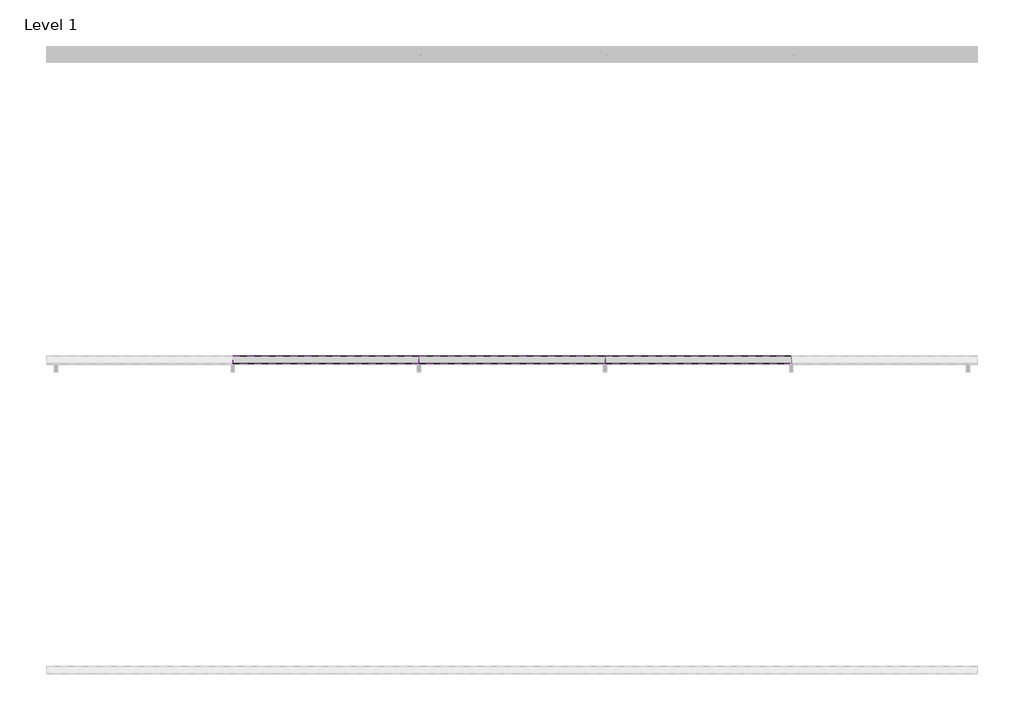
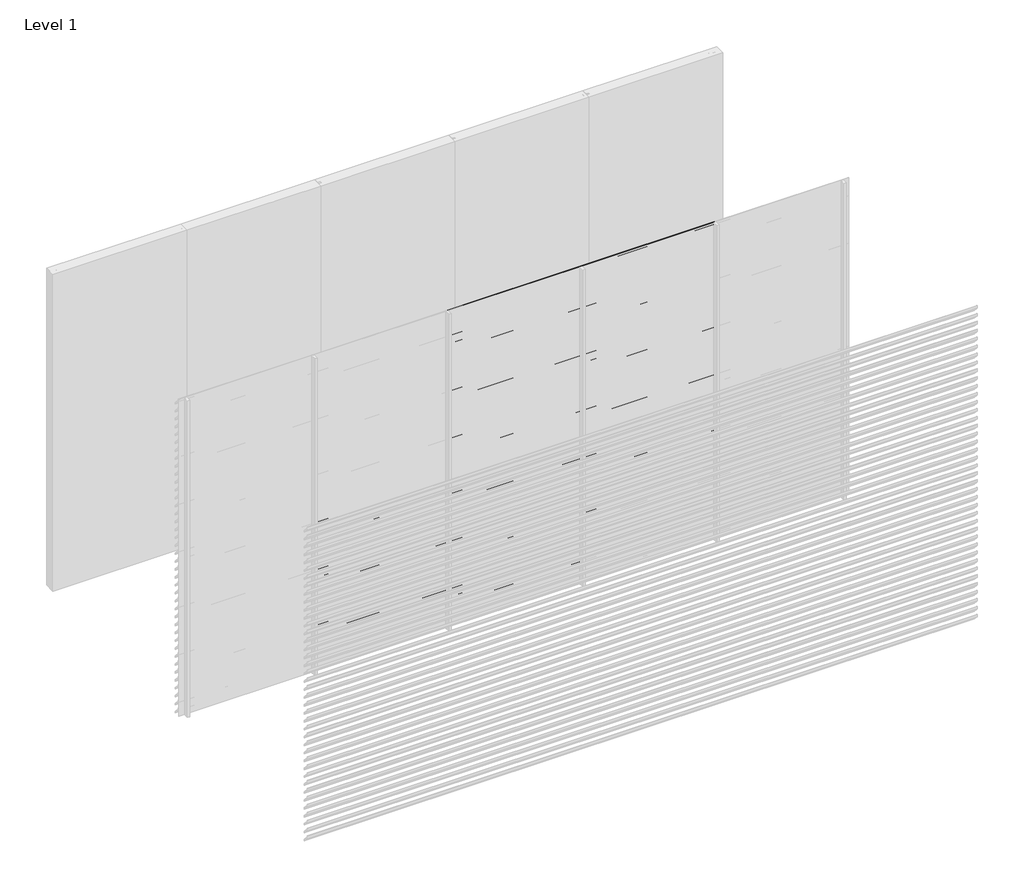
# One storey, part 8 of 11: 93 proxies.
"""IFC4 building model written with IfcOpenShell, lengths in millimetres."""

from ifc_helpers import new_model, si_unit, frame, origin, place, context, project, spatial, polyline, outline, extrude, element, save

model = new_model("IFC4")

# Units and contexts
model_context = context("Model", 3, world=origin())
ifc_project = project(units=[si_unit("LENGTHUNIT", "METRE", prefix="MILLI")], contexts=[model_context])

# Site, building, storey
site = spatial("IfcSite", under=ifc_project)
building = spatial("IfcBuilding", under=site)
storey = spatial("IfcBuildingStorey", under=building, Name="Level 1", Elevation=0.0)

# Proxies
placement = place(None, origin())
element("IfcBuildingElementProxy", 1, Name="Wall Sweeps", at=placement, inside=storey, context=model_context, shape_type="SweptSolid", body=[
    extrude(outline(polyline([(-5995.0, 1575.0), (-5995.0, 1565.7409854), (-5946.0, 1515.0), (-5946.0, 1499.0), (-5997.0, 1551.812046), (-5997.0, 1575.0), (-5995.0, 1575.0)])), frame((1200.0, 0.0, 0.0), z_axis=(1.0, 0.0, 0.0), x_axis=(0.0, 1.0, 0.0)), (0.0, 0.0, 1.0), 1200.0),
])
element("IfcBuildingElementProxy", 2, Name="Wall Sweeps", at=placement, inside=storey, context=model_context, shape_type="SweptSolid", body=[
    extrude(outline(polyline([(-5995.0, 1500.0), (-5995.0, 1490.7409854), (-5946.0, 1440.0), (-5946.0, 1424.0), (-5997.0, 1476.812046), (-5997.0, 1500.0), (-5995.0, 1500.0)])), frame((1200.0, 0.0, 0.0), z_axis=(1.0, 0.0, 0.0), x_axis=(0.0, 1.0, 0.0)), (0.0, 0.0, 1.0), 1200.0),
])
element("IfcBuildingElementProxy", 3, Name="Wall Sweeps", at=placement, inside=storey, context=model_context, shape_type="SweptSolid", body=[
    extrude(outline(polyline([(-5995.0, 1425.0), (-5995.0, 1415.7409854), (-5946.0, 1365.0), (-5946.0, 1349.0), (-5997.0, 1401.812046), (-5997.0, 1425.0), (-5995.0, 1425.0)])), frame((1200.0, 0.0, 0.0), z_axis=(1.0, 0.0, 0.0), x_axis=(0.0, 1.0, 0.0)), (0.0, 0.0, 1.0), 1200.0),
])
element("IfcBuildingElementProxy", 4, Name="Wall Sweeps", at=placement, inside=storey, context=model_context, shape_type="SweptSolid", body=[
    extrude(outline(polyline([(-5995.0, 1350.0), (-5995.0, 1340.7409854), (-5946.0, 1290.0), (-5946.0, 1274.0), (-5997.0, 1326.812046), (-5997.0, 1350.0), (-5995.0, 1350.0)])), frame((1200.0, 0.0, 0.0), z_axis=(1.0, 0.0, 0.0), x_axis=(0.0, 1.0, 0.0)), (0.0, 0.0, 1.0), 1200.0),
])
element("IfcBuildingElementProxy", 5, Name="Wall Sweeps", at=placement, inside=storey, context=model_context, shape_type="SweptSolid", body=[
    extrude(outline(polyline([(-5995.0, 1275.0), (-5995.0, 1265.7409854), (-5946.0, 1215.0), (-5946.0, 1199.0), (-5997.0, 1251.812046), (-5997.0, 1275.0), (-5995.0, 1275.0)])), frame((1200.0, 0.0, 0.0), z_axis=(1.0, 0.0, 0.0), x_axis=(0.0, 1.0, 0.0)), (0.0, 0.0, 1.0), 1200.0),
])
element("IfcBuildingElementProxy", 6, Name="Wall Sweeps", at=placement, inside=storey, context=model_context, shape_type="SweptSolid", body=[
    extrude(outline(polyline([(-5995.0, 1200.0), (-5995.0, 1190.7409854), (-5946.0, 1140.0), (-5946.0, 1124.0), (-5997.0, 1176.812046), (-5997.0, 1200.0), (-5995.0, 1200.0)])), frame((1200.0, 0.0, 0.0), z_axis=(1.0, 0.0, 0.0), x_axis=(0.0, 1.0, 0.0)), (0.0, 0.0, 1.0), 1200.0),
])
element("IfcBuildingElementProxy", 7, Name="Wall Sweeps", at=placement, inside=storey, context=model_context, shape_type="SweptSolid", body=[
    extrude(outline(polyline([(-5995.0, 1125.0), (-5995.0, 1115.7409854), (-5946.0, 1065.0), (-5946.0, 1049.0), (-5997.0, 1101.812046), (-5997.0, 1125.0), (-5995.0, 1125.0)])), frame((1200.0, 0.0, 0.0), z_axis=(1.0, 0.0, 0.0), x_axis=(0.0, 1.0, 0.0)), (0.0, 0.0, 1.0), 1200.0),
])
element("IfcBuildingElementProxy", 8, Name="Wall Sweeps", at=placement, inside=storey, context=model_context, shape_type="SweptSolid", body=[
    extrude(outline(polyline([(-5995.0, 1050.0), (-5995.0, 1040.7409854), (-5946.0, 990.0), (-5946.0, 974.0), (-5997.0, 1026.812046), (-5997.0, 1050.0), (-5995.0, 1050.0)])), frame((1200.0, 0.0, 0.0), z_axis=(1.0, 0.0, 0.0), x_axis=(0.0, 1.0, 0.0)), (0.0, 0.0, 1.0), 1200.0),
])
element("IfcBuildingElementProxy", 9, Name="Wall Sweeps", at=placement, inside=storey, context=model_context, shape_type="SweptSolid", body=[
    extrude(outline(polyline([(-5995.0, 975.0), (-5995.0, 965.7409854), (-5946.0, 915.0), (-5946.0, 899.0), (-5997.0, 951.812046), (-5997.0, 975.0), (-5995.0, 975.0)])), frame((1200.0, 0.0, 0.0), z_axis=(1.0, 0.0, 0.0), x_axis=(0.0, 1.0, 0.0)), (0.0, 0.0, 1.0), 1200.0),
])
element("IfcBuildingElementProxy", 10, Name="Wall Sweeps", at=placement, inside=storey, context=model_context, shape_type="SweptSolid", body=[
    extrude(outline(polyline([(-5995.0, 900.0), (-5995.0, 890.7409854), (-5946.0, 840.0), (-5946.0, 824.0), (-5997.0, 876.812046), (-5997.0, 900.0), (-5995.0, 900.0)])), frame((1200.0, 0.0, 0.0), z_axis=(1.0, 0.0, 0.0), x_axis=(0.0, 1.0, 0.0)), (0.0, 0.0, 1.0), 1200.0),
])
element("IfcBuildingElementProxy", 11, Name="Wall Sweeps", at=placement, inside=storey, context=model_context, shape_type="SweptSolid", body=[
    extrude(outline(polyline([(-5995.0, 825.0), (-5995.0, 815.7409854), (-5946.0, 765.0), (-5946.0, 749.0), (-5997.0, 801.812046), (-5997.0, 825.0), (-5995.0, 825.0)])), frame((1200.0, 0.0, 0.0), z_axis=(1.0, 0.0, 0.0), x_axis=(0.0, 1.0, 0.0)), (0.0, 0.0, 1.0), 1200.0),
])
element("IfcBuildingElementProxy", 12, Name="Wall Sweeps", at=placement, inside=storey, context=model_context, shape_type="SweptSolid", body=[
    extrude(outline(polyline([(-5995.0, 750.0), (-5995.0, 740.7409854), (-5946.0, 690.0), (-5946.0, 674.0), (-5997.0, 726.812046), (-5997.0, 750.0), (-5995.0, 750.0)])), frame((1200.0, 0.0, 0.0), z_axis=(1.0, 0.0, 0.0), x_axis=(0.0, 1.0, 0.0)), (0.0, 0.0, 1.0), 1200.0),
])
element("IfcBuildingElementProxy", 13, Name="Wall Sweeps", at=placement, inside=storey, context=model_context, shape_type="SweptSolid", body=[
    extrude(outline(polyline([(-5995.0, 675.0), (-5995.0, 665.7409854), (-5946.0, 615.0), (-5946.0, 599.0), (-5997.0, 651.812046), (-5997.0, 675.0), (-5995.0, 675.0)])), frame((1200.0, 0.0, 0.0), z_axis=(1.0, 0.0, 0.0), x_axis=(0.0, 1.0, 0.0)), (0.0, 0.0, 1.0), 1200.0),
])
element("IfcBuildingElementProxy", 14, Name="Wall Sweeps", at=placement, inside=storey, context=model_context, shape_type="SweptSolid", body=[
    extrude(outline(polyline([(-5995.0, 600.0), (-5995.0, 590.7409854), (-5946.0, 540.0), (-5946.0, 524.0), (-5997.0, 576.812046), (-5997.0, 600.0), (-5995.0, 600.0)])), frame((1200.0, 0.0, 0.0), z_axis=(1.0, 0.0, 0.0), x_axis=(0.0, 1.0, 0.0)), (0.0, 0.0, 1.0), 1200.0),
])
element("IfcBuildingElementProxy", 15, Name="Wall Sweeps", at=placement, inside=storey, context=model_context, shape_type="SweptSolid", body=[
    extrude(outline(polyline([(-5995.0, 525.0), (-5995.0, 515.7409854), (-5946.0, 465.0), (-5946.0, 449.0), (-5997.0, 501.812046), (-5997.0, 525.0), (-5995.0, 525.0)])), frame((1200.0, 0.0, 0.0), z_axis=(1.0, 0.0, 0.0), x_axis=(0.0, 1.0, 0.0)), (0.0, 0.0, 1.0), 1200.0),
])
element("IfcBuildingElementProxy", 16, Name="Wall Sweeps", at=placement, inside=storey, context=model_context, shape_type="SweptSolid", body=[
    extrude(outline(polyline([(-5995.0, 450.0), (-5995.0, 440.7409854), (-5946.0, 390.0), (-5946.0, 374.0), (-5997.0, 426.812046), (-5997.0, 450.0), (-5995.0, 450.0)])), frame((1200.0, 0.0, 0.0), z_axis=(1.0, 0.0, 0.0), x_axis=(0.0, 1.0, 0.0)), (0.0, 0.0, 1.0), 1200.0),
])
element("IfcBuildingElementProxy", 17, Name="Wall Sweeps", at=placement, inside=storey, context=model_context, shape_type="SweptSolid", body=[
    extrude(outline(polyline([(-5995.0, 375.0), (-5995.0, 365.7409854), (-5946.0, 315.0), (-5946.0, 299.0), (-5997.0, 351.812046), (-5997.0, 375.0), (-5995.0, 375.0)])), frame((1200.0, 0.0, 0.0), z_axis=(1.0, 0.0, 0.0), x_axis=(0.0, 1.0, 0.0)), (0.0, 0.0, 1.0), 1200.0),
])
element("IfcBuildingElementProxy", 18, Name="Wall Sweeps", at=placement, inside=storey, context=model_context, shape_type="SweptSolid", body=[
    extrude(outline(polyline([(-5995.0, 300.0), (-5995.0, 290.7409854), (-5946.0, 240.0), (-5946.0, 224.0), (-5997.0, 276.812046), (-5997.0, 300.0), (-5995.0, 300.0)])), frame((1200.0, 0.0, 0.0), z_axis=(1.0, 0.0, 0.0), x_axis=(0.0, 1.0, 0.0)), (0.0, 0.0, 1.0), 1200.0),
])
element("IfcBuildingElementProxy", 19, Name="Wall Sweeps", at=placement, inside=storey, context=model_context, shape_type="SweptSolid", body=[
    extrude(outline(polyline([(-5995.0, 225.0), (-5995.0, 215.7409854), (-5946.0, 165.0), (-5946.0, 149.0), (-5997.0, 201.812046), (-5997.0, 225.0), (-5995.0, 225.0)])), frame((1200.0, 0.0, 0.0), z_axis=(1.0, 0.0, 0.0), x_axis=(0.0, 1.0, 0.0)), (0.0, 0.0, 1.0), 1200.0),
])
element("IfcBuildingElementProxy", 20, Name="Wall Sweeps", at=placement, inside=storey, context=model_context, shape_type="SweptSolid", body=[
    extrude(outline(polyline([(-5995.0, 150.0), (-5995.0, 140.7409854), (-5946.0, 90.0), (-5946.0, 74.0), (-5997.0, 126.812046), (-5997.0, 150.0), (-5995.0, 150.0)])), frame((1200.0, 0.0, 0.0), z_axis=(1.0, 0.0, 0.0), x_axis=(0.0, 1.0, 0.0)), (0.0, 0.0, 1.0), 1200.0),
])
element("IfcBuildingElementProxy", 21, Name="Wall Sweeps", at=placement, inside=storey, context=model_context, shape_type="SweptSolid", body=[
    extrude(outline(polyline([(-5995.0, 75.0), (-5995.0, 65.7409854), (-5946.0, 15.0), (-5946.0, -1.0), (-5997.0, 51.812046), (-5997.0, 75.0), (-5995.0, 75.0)])), frame((1200.0, 0.0, 0.0), z_axis=(1.0, 0.0, 0.0), x_axis=(0.0, 1.0, 0.0)), (0.0, 0.0, 1.0), 1200.0),
])
element("IfcBuildingElementProxy", 22, Name="Wall Sweeps", at=placement, inside=storey, context=model_context, shape_type="SweptSolid", body=[
    extrude(outline(polyline([(-5995.0, 3000.0), (-5995.0, 2990.7409854), (-5946.0, 2940.0), (-5946.0, 2924.0), (-5997.0, 2976.812046), (-5997.0, 3000.0), (-5995.0, 3000.0)])), frame((2400.0, 0.0, 0.0), z_axis=(1.0, 0.0, 0.0), x_axis=(0.0, 1.0, 0.0)), (0.0, 0.0, 1.0), 1200.0),
])
element("IfcBuildingElementProxy", 23, Name="Wall Sweeps", at=placement, inside=storey, context=model_context, shape_type="SweptSolid", body=[
    extrude(outline(polyline([(-5995.0, 2925.0), (-5995.0, 2915.7409854), (-5946.0, 2865.0), (-5946.0, 2849.0), (-5997.0, 2901.812046), (-5997.0, 2925.0), (-5995.0, 2925.0)])), frame((2400.0, 0.0, 0.0), z_axis=(1.0, 0.0, 0.0), x_axis=(0.0, 1.0, 0.0)), (0.0, 0.0, 1.0), 1200.0),
])
element("IfcBuildingElementProxy", 24, Name="Wall Sweeps", at=placement, inside=storey, context=model_context, shape_type="SweptSolid", body=[
    extrude(outline(polyline([(-5995.0, 2850.0), (-5995.0, 2840.7409854), (-5946.0, 2790.0), (-5946.0, 2774.0), (-5997.0, 2826.812046), (-5997.0, 2850.0), (-5995.0, 2850.0)])), frame((2400.0, 0.0, 0.0), z_axis=(1.0, 0.0, 0.0), x_axis=(0.0, 1.0, 0.0)), (0.0, 0.0, 1.0), 1200.0),
])
element("IfcBuildingElementProxy", 25, Name="Wall Sweeps", at=placement, inside=storey, context=model_context, shape_type="SweptSolid", body=[
    extrude(outline(polyline([(-5995.0, 2775.0), (-5995.0, 2765.7409854), (-5946.0, 2715.0), (-5946.0, 2699.0), (-5997.0, 2751.812046), (-5997.0, 2775.0), (-5995.0, 2775.0)])), frame((2400.0, 0.0, 0.0), z_axis=(1.0, 0.0, 0.0), x_axis=(0.0, 1.0, 0.0)), (0.0, 0.0, 1.0), 1200.0),
])
element("IfcBuildingElementProxy", 26, Name="Wall Sweeps", at=placement, inside=storey, context=model_context, shape_type="SweptSolid", body=[
    extrude(outline(polyline([(-5995.0, 2700.0), (-5995.0, 2690.7409854), (-5946.0, 2640.0), (-5946.0, 2624.0), (-5997.0, 2676.812046), (-5997.0, 2700.0), (-5995.0, 2700.0)])), frame((2400.0, 0.0, 0.0), z_axis=(1.0, 0.0, 0.0), x_axis=(0.0, 1.0, 0.0)), (0.0, 0.0, 1.0), 1200.0),
])
element("IfcBuildingElementProxy", 27, Name="Wall Sweeps", at=placement, inside=storey, context=model_context, shape_type="SweptSolid", body=[
    extrude(outline(polyline([(-5995.0, 2625.0), (-5995.0, 2615.7409854), (-5946.0, 2565.0), (-5946.0, 2549.0), (-5997.0, 2601.812046), (-5997.0, 2625.0), (-5995.0, 2625.0)])), frame((2400.0, 0.0, 0.0), z_axis=(1.0, 0.0, 0.0), x_axis=(0.0, 1.0, 0.0)), (0.0, 0.0, 1.0), 1200.0),
])
element("IfcBuildingElementProxy", 28, Name="Wall Sweeps", at=placement, inside=storey, context=model_context, shape_type="SweptSolid", body=[
    extrude(outline(polyline([(-5995.0, 2550.0), (-5995.0, 2540.7409854), (-5946.0, 2490.0), (-5946.0, 2474.0), (-5997.0, 2526.812046), (-5997.0, 2550.0), (-5995.0, 2550.0)])), frame((2400.0, 0.0, 0.0), z_axis=(1.0, 0.0, 0.0), x_axis=(0.0, 1.0, 0.0)), (0.0, 0.0, 1.0), 1200.0),
])
element("IfcBuildingElementProxy", 29, Name="Wall Sweeps", at=placement, inside=storey, context=model_context, shape_type="SweptSolid", body=[
    extrude(outline(polyline([(-5995.0, 2475.0), (-5995.0, 2465.7409854), (-5946.0, 2415.0), (-5946.0, 2399.0), (-5997.0, 2451.812046), (-5997.0, 2475.0), (-5995.0, 2475.0)])), frame((2400.0, 0.0, 0.0), z_axis=(1.0, 0.0, 0.0), x_axis=(0.0, 1.0, 0.0)), (0.0, 0.0, 1.0), 1200.0),
])
element("IfcBuildingElementProxy", 30, Name="Wall Sweeps", at=placement, inside=storey, context=model_context, shape_type="SweptSolid", body=[
    extrude(outline(polyline([(-5995.0, 2400.0), (-5995.0, 2390.7409854), (-5946.0, 2340.0), (-5946.0, 2324.0), (-5997.0, 2376.812046), (-5997.0, 2400.0), (-5995.0, 2400.0)])), frame((2400.0, 0.0, 0.0), z_axis=(1.0, 0.0, 0.0), x_axis=(0.0, 1.0, 0.0)), (0.0, 0.0, 1.0), 1200.0),
])
element("IfcBuildingElementProxy", 31, Name="Wall Sweeps", at=placement, inside=storey, context=model_context, shape_type="SweptSolid", body=[
    extrude(outline(polyline([(-5995.0, 2325.0), (-5995.0, 2315.7409854), (-5946.0, 2265.0), (-5946.0, 2249.0), (-5997.0, 2301.812046), (-5997.0, 2325.0), (-5995.0, 2325.0)])), frame((2400.0, 0.0, 0.0), z_axis=(1.0, 0.0, 0.0), x_axis=(0.0, 1.0, 0.0)), (0.0, 0.0, 1.0), 1200.0),
])
element("IfcBuildingElementProxy", 32, Name="Wall Sweeps", at=placement, inside=storey, context=model_context, shape_type="SweptSolid", body=[
    extrude(outline(polyline([(-5995.0, 2250.0), (-5995.0, 2240.7409854), (-5946.0, 2190.0), (-5946.0, 2174.0), (-5997.0, 2226.812046), (-5997.0, 2250.0), (-5995.0, 2250.0)])), frame((2400.0, 0.0, 0.0), z_axis=(1.0, 0.0, 0.0), x_axis=(0.0, 1.0, 0.0)), (0.0, 0.0, 1.0), 1200.0),
])
element("IfcBuildingElementProxy", 33, Name="Wall Sweeps", at=placement, inside=storey, context=model_context, shape_type="SweptSolid", body=[
    extrude(outline(polyline([(-5995.0, 2175.0), (-5995.0, 2165.7409854), (-5946.0, 2115.0), (-5946.0, 2099.0), (-5997.0, 2151.812046), (-5997.0, 2175.0), (-5995.0, 2175.0)])), frame((2400.0, 0.0, 0.0), z_axis=(1.0, 0.0, 0.0), x_axis=(0.0, 1.0, 0.0)), (0.0, 0.0, 1.0), 1200.0),
])
element("IfcBuildingElementProxy", 34, Name="Wall Sweeps", at=placement, inside=storey, context=model_context, shape_type="SweptSolid", body=[
    extrude(outline(polyline([(-5995.0, 2100.0), (-5995.0, 2090.7409854), (-5946.0, 2040.0), (-5946.0, 2024.0), (-5997.0, 2076.812046), (-5997.0, 2100.0), (-5995.0, 2100.0)])), frame((2400.0, 0.0, 0.0), z_axis=(1.0, 0.0, 0.0), x_axis=(0.0, 1.0, 0.0)), (0.0, 0.0, 1.0), 1200.0),
])
element("IfcBuildingElementProxy", 35, Name="Wall Sweeps", at=placement, inside=storey, context=model_context, shape_type="SweptSolid", body=[
    extrude(outline(polyline([(-5995.0, 2025.0), (-5995.0, 2015.7409854), (-5946.0, 1965.0), (-5946.0, 1949.0), (-5997.0, 2001.812046), (-5997.0, 2025.0), (-5995.0, 2025.0)])), frame((2400.0, 0.0, 0.0), z_axis=(1.0, 0.0, 0.0), x_axis=(0.0, 1.0, 0.0)), (0.0, 0.0, 1.0), 1200.0),
])
element("IfcBuildingElementProxy", 36, Name="Wall Sweeps", at=placement, inside=storey, context=model_context, shape_type="SweptSolid", body=[
    extrude(outline(polyline([(-5995.0, 1950.0), (-5995.0, 1940.7409854), (-5946.0, 1890.0), (-5946.0, 1874.0), (-5997.0, 1926.812046), (-5997.0, 1950.0), (-5995.0, 1950.0)])), frame((2400.0, 0.0, 0.0), z_axis=(1.0, 0.0, 0.0), x_axis=(0.0, 1.0, 0.0)), (0.0, 0.0, 1.0), 1200.0),
])
element("IfcBuildingElementProxy", 37, Name="Wall Sweeps", at=placement, inside=storey, context=model_context, shape_type="SweptSolid", body=[
    extrude(outline(polyline([(-5995.0, 1875.0), (-5995.0, 1865.7409854), (-5946.0, 1815.0), (-5946.0, 1799.0), (-5997.0, 1851.812046), (-5997.0, 1875.0), (-5995.0, 1875.0)])), frame((2400.0, 0.0, 0.0), z_axis=(1.0, 0.0, 0.0), x_axis=(0.0, 1.0, 0.0)), (0.0, 0.0, 1.0), 1200.0),
])
element("IfcBuildingElementProxy", 38, Name="Wall Sweeps", at=placement, inside=storey, context=model_context, shape_type="SweptSolid", body=[
    extrude(outline(polyline([(-5995.0, 1800.0), (-5995.0, 1790.7409854), (-5946.0, 1740.0), (-5946.0, 1724.0), (-5997.0, 1776.812046), (-5997.0, 1800.0), (-5995.0, 1800.0)])), frame((2400.0, 0.0, 0.0), z_axis=(1.0, 0.0, 0.0), x_axis=(0.0, 1.0, 0.0)), (0.0, 0.0, 1.0), 1200.0),
])
element("IfcBuildingElementProxy", 39, Name="Wall Sweeps", at=placement, inside=storey, context=model_context, shape_type="SweptSolid", body=[
    extrude(outline(polyline([(-5995.0, 1725.0), (-5995.0, 1715.7409854), (-5946.0, 1665.0), (-5946.0, 1649.0), (-5997.0, 1701.812046), (-5997.0, 1725.0), (-5995.0, 1725.0)])), frame((2400.0, 0.0, 0.0), z_axis=(1.0, 0.0, 0.0), x_axis=(0.0, 1.0, 0.0)), (0.0, 0.0, 1.0), 1200.0),
])
element("IfcBuildingElementProxy", 40, Name="Wall Sweeps", at=placement, inside=storey, context=model_context, shape_type="SweptSolid", body=[
    extrude(outline(polyline([(-5995.0, 1650.0), (-5995.0, 1640.7409854), (-5946.0, 1590.0), (-5946.0, 1574.0), (-5997.0, 1626.812046), (-5997.0, 1650.0), (-5995.0, 1650.0)])), frame((2400.0, 0.0, 0.0), z_axis=(1.0, 0.0, 0.0), x_axis=(0.0, 1.0, 0.0)), (0.0, 0.0, 1.0), 1200.0),
])
element("IfcBuildingElementProxy", 41, Name="Wall Sweeps", at=placement, inside=storey, context=model_context, shape_type="SweptSolid", body=[
    extrude(outline(polyline([(-5995.0, 1575.0), (-5995.0, 1565.7409854), (-5946.0, 1515.0), (-5946.0, 1499.0), (-5997.0, 1551.812046), (-5997.0, 1575.0), (-5995.0, 1575.0)])), frame((2400.0, 0.0, 0.0), z_axis=(1.0, 0.0, 0.0), x_axis=(0.0, 1.0, 0.0)), (0.0, 0.0, 1.0), 1200.0),
])
element("IfcBuildingElementProxy", 42, Name="Wall Sweeps", at=placement, inside=storey, context=model_context, shape_type="SweptSolid", body=[
    extrude(outline(polyline([(-5995.0, 1500.0), (-5995.0, 1490.7409854), (-5946.0, 1440.0), (-5946.0, 1424.0), (-5997.0, 1476.812046), (-5997.0, 1500.0), (-5995.0, 1500.0)])), frame((2400.0, 0.0, 0.0), z_axis=(1.0, 0.0, 0.0), x_axis=(0.0, 1.0, 0.0)), (0.0, 0.0, 1.0), 1200.0),
])
element("IfcBuildingElementProxy", 43, Name="Wall Sweeps", at=placement, inside=storey, context=model_context, shape_type="SweptSolid", body=[
    extrude(outline(polyline([(-5995.0, 1425.0), (-5995.0, 1415.7409854), (-5946.0, 1365.0), (-5946.0, 1349.0), (-5997.0, 1401.812046), (-5997.0, 1425.0), (-5995.0, 1425.0)])), frame((2400.0, 0.0, 0.0), z_axis=(1.0, 0.0, 0.0), x_axis=(0.0, 1.0, 0.0)), (0.0, 0.0, 1.0), 1200.0),
])
element("IfcBuildingElementProxy", 44, Name="Wall Sweeps", at=placement, inside=storey, context=model_context, shape_type="SweptSolid", body=[
    extrude(outline(polyline([(-5995.0, 1350.0), (-5995.0, 1340.7409854), (-5946.0, 1290.0), (-5946.0, 1274.0), (-5997.0, 1326.812046), (-5997.0, 1350.0), (-5995.0, 1350.0)])), frame((2400.0, 0.0, 0.0), z_axis=(1.0, 0.0, 0.0), x_axis=(0.0, 1.0, 0.0)), (0.0, 0.0, 1.0), 1200.0),
])
element("IfcBuildingElementProxy", 45, Name="Wall Sweeps", at=placement, inside=storey, context=model_context, shape_type="SweptSolid", body=[
    extrude(outline(polyline([(-5995.0, 1275.0), (-5995.0, 1265.7409854), (-5946.0, 1215.0), (-5946.0, 1199.0), (-5997.0, 1251.812046), (-5997.0, 1275.0), (-5995.0, 1275.0)])), frame((2400.0, 0.0, 0.0), z_axis=(1.0, 0.0, 0.0), x_axis=(0.0, 1.0, 0.0)), (0.0, 0.0, 1.0), 1200.0),
])
element("IfcBuildingElementProxy", 46, Name="Wall Sweeps", at=placement, inside=storey, context=model_context, shape_type="SweptSolid", body=[
    extrude(outline(polyline([(-5995.0, 1200.0), (-5995.0, 1190.7409854), (-5946.0, 1140.0), (-5946.0, 1124.0), (-5997.0, 1176.812046), (-5997.0, 1200.0), (-5995.0, 1200.0)])), frame((2400.0, 0.0, 0.0), z_axis=(1.0, 0.0, 0.0), x_axis=(0.0, 1.0, 0.0)), (0.0, 0.0, 1.0), 1200.0),
])
element("IfcBuildingElementProxy", 47, Name="Wall Sweeps", at=placement, inside=storey, context=model_context, shape_type="SweptSolid", body=[
    extrude(outline(polyline([(-5995.0, 1125.0), (-5995.0, 1115.7409854), (-5946.0, 1065.0), (-5946.0, 1049.0), (-5997.0, 1101.812046), (-5997.0, 1125.0), (-5995.0, 1125.0)])), frame((2400.0, 0.0, 0.0), z_axis=(1.0, 0.0, 0.0), x_axis=(0.0, 1.0, 0.0)), (0.0, 0.0, 1.0), 1200.0),
])
element("IfcBuildingElementProxy", 48, Name="Wall Sweeps", at=placement, inside=storey, context=model_context, shape_type="SweptSolid", body=[
    extrude(outline(polyline([(-5995.0, 1050.0), (-5995.0, 1040.7409854), (-5946.0, 990.0), (-5946.0, 974.0), (-5997.0, 1026.812046), (-5997.0, 1050.0), (-5995.0, 1050.0)])), frame((2400.0, 0.0, 0.0), z_axis=(1.0, 0.0, 0.0), x_axis=(0.0, 1.0, 0.0)), (0.0, 0.0, 1.0), 1200.0),
])
element("IfcBuildingElementProxy", 49, Name="Wall Sweeps", at=placement, inside=storey, context=model_context, shape_type="SweptSolid", body=[
    extrude(outline(polyline([(-5995.0, 975.0), (-5995.0, 965.7409854), (-5946.0, 915.0), (-5946.0, 899.0), (-5997.0, 951.812046), (-5997.0, 975.0), (-5995.0, 975.0)])), frame((2400.0, 0.0, 0.0), z_axis=(1.0, 0.0, 0.0), x_axis=(0.0, 1.0, 0.0)), (0.0, 0.0, 1.0), 1200.0),
])
element("IfcBuildingElementProxy", 50, Name="Wall Sweeps", at=placement, inside=storey, context=model_context, shape_type="SweptSolid", body=[
    extrude(outline(polyline([(-5995.0, 900.0), (-5995.0, 890.7409854), (-5946.0, 840.0), (-5946.0, 824.0), (-5997.0, 876.812046), (-5997.0, 900.0), (-5995.0, 900.0)])), frame((2400.0, 0.0, 0.0), z_axis=(1.0, 0.0, 0.0), x_axis=(0.0, 1.0, 0.0)), (0.0, 0.0, 1.0), 1200.0),
])
element("IfcBuildingElementProxy", 51, Name="Wall Sweeps", at=placement, inside=storey, context=model_context, shape_type="SweptSolid", body=[
    extrude(outline(polyline([(-5995.0, 825.0), (-5995.0, 815.7409854), (-5946.0, 765.0), (-5946.0, 749.0), (-5997.0, 801.812046), (-5997.0, 825.0), (-5995.0, 825.0)])), frame((2400.0, 0.0, 0.0), z_axis=(1.0, 0.0, 0.0), x_axis=(0.0, 1.0, 0.0)), (0.0, 0.0, 1.0), 1200.0),
])
element("IfcBuildingElementProxy", 52, Name="Wall Sweeps", at=placement, inside=storey, context=model_context, shape_type="SweptSolid", body=[
    extrude(outline(polyline([(-5995.0, 750.0), (-5995.0, 740.7409854), (-5946.0, 690.0), (-5946.0, 674.0), (-5997.0, 726.812046), (-5997.0, 750.0), (-5995.0, 750.0)])), frame((2400.0, 0.0, 0.0), z_axis=(1.0, 0.0, 0.0), x_axis=(0.0, 1.0, 0.0)), (0.0, 0.0, 1.0), 1200.0),
])
element("IfcBuildingElementProxy", 53, Name="Wall Sweeps", at=placement, inside=storey, context=model_context, shape_type="SweptSolid", body=[
    extrude(outline(polyline([(-5995.0, 675.0), (-5995.0, 665.7409854), (-5946.0, 615.0), (-5946.0, 599.0), (-5997.0, 651.812046), (-5997.0, 675.0), (-5995.0, 675.0)])), frame((2400.0, 0.0, 0.0), z_axis=(1.0, 0.0, 0.0), x_axis=(0.0, 1.0, 0.0)), (0.0, 0.0, 1.0), 1200.0),
])
element("IfcBuildingElementProxy", 54, Name="Wall Sweeps", at=placement, inside=storey, context=model_context, shape_type="SweptSolid", body=[
    extrude(outline(polyline([(-5995.0, 600.0), (-5995.0, 590.7409854), (-5946.0, 540.0), (-5946.0, 524.0), (-5997.0, 576.812046), (-5997.0, 600.0), (-5995.0, 600.0)])), frame((2400.0, 0.0, 0.0), z_axis=(1.0, 0.0, 0.0), x_axis=(0.0, 1.0, 0.0)), (0.0, 0.0, 1.0), 1200.0),
])
element("IfcBuildingElementProxy", 55, Name="Wall Sweeps", at=placement, inside=storey, context=model_context, shape_type="SweptSolid", body=[
    extrude(outline(polyline([(-5995.0, 525.0), (-5995.0, 515.7409854), (-5946.0, 465.0), (-5946.0, 449.0), (-5997.0, 501.812046), (-5997.0, 525.0), (-5995.0, 525.0)])), frame((2400.0, 0.0, 0.0), z_axis=(1.0, 0.0, 0.0), x_axis=(0.0, 1.0, 0.0)), (0.0, 0.0, 1.0), 1200.0),
])
element("IfcBuildingElementProxy", 56, Name="Wall Sweeps", at=placement, inside=storey, context=model_context, shape_type="SweptSolid", body=[
    extrude(outline(polyline([(-5995.0, 450.0), (-5995.0, 440.7409854), (-5946.0, 390.0), (-5946.0, 374.0), (-5997.0, 426.812046), (-5997.0, 450.0), (-5995.0, 450.0)])), frame((2400.0, 0.0, 0.0), z_axis=(1.0, 0.0, 0.0), x_axis=(0.0, 1.0, 0.0)), (0.0, 0.0, 1.0), 1200.0),
])
element("IfcBuildingElementProxy", 57, Name="Wall Sweeps", at=placement, inside=storey, context=model_context, shape_type="SweptSolid", body=[
    extrude(outline(polyline([(-5995.0, 375.0), (-5995.0, 365.7409854), (-5946.0, 315.0), (-5946.0, 299.0), (-5997.0, 351.812046), (-5997.0, 375.0), (-5995.0, 375.0)])), frame((2400.0, 0.0, 0.0), z_axis=(1.0, 0.0, 0.0), x_axis=(0.0, 1.0, 0.0)), (0.0, 0.0, 1.0), 1200.0),
])
element("IfcBuildingElementProxy", 58, Name="Wall Sweeps", at=placement, inside=storey, context=model_context, shape_type="SweptSolid", body=[
    extrude(outline(polyline([(-5995.0, 300.0), (-5995.0, 290.7409854), (-5946.0, 240.0), (-5946.0, 224.0), (-5997.0, 276.812046), (-5997.0, 300.0), (-5995.0, 300.0)])), frame((2400.0, 0.0, 0.0), z_axis=(1.0, 0.0, 0.0), x_axis=(0.0, 1.0, 0.0)), (0.0, 0.0, 1.0), 1200.0),
])
element("IfcBuildingElementProxy", 59, Name="Wall Sweeps", at=placement, inside=storey, context=model_context, shape_type="SweptSolid", body=[
    extrude(outline(polyline([(-5995.0, 225.0), (-5995.0, 215.7409854), (-5946.0, 165.0), (-5946.0, 149.0), (-5997.0, 201.812046), (-5997.0, 225.0), (-5995.0, 225.0)])), frame((2400.0, 0.0, 0.0), z_axis=(1.0, 0.0, 0.0), x_axis=(0.0, 1.0, 0.0)), (0.0, 0.0, 1.0), 1200.0),
])
element("IfcBuildingElementProxy", 60, Name="Wall Sweeps", at=placement, inside=storey, context=model_context, shape_type="SweptSolid", body=[
    extrude(outline(polyline([(-5995.0, 150.0), (-5995.0, 140.7409854), (-5946.0, 90.0), (-5946.0, 74.0), (-5997.0, 126.812046), (-5997.0, 150.0), (-5995.0, 150.0)])), frame((2400.0, 0.0, 0.0), z_axis=(1.0, 0.0, 0.0), x_axis=(0.0, 1.0, 0.0)), (0.0, 0.0, 1.0), 1200.0),
])
element("IfcBuildingElementProxy", 61, Name="Wall Sweeps", at=placement, inside=storey, context=model_context, shape_type="SweptSolid", body=[
    extrude(outline(polyline([(-5995.0, 75.0), (-5995.0, 65.7409854), (-5946.0, 15.0), (-5946.0, -1.0), (-5997.0, 51.812046), (-5997.0, 75.0), (-5995.0, 75.0)])), frame((2400.0, 0.0, 0.0), z_axis=(1.0, 0.0, 0.0), x_axis=(0.0, 1.0, 0.0)), (0.0, 0.0, 1.0), 1200.0),
])
element("IfcBuildingElementProxy", 62, Name="Wall Sweeps", at=placement, inside=storey, context=model_context, shape_type="SweptSolid", body=[
    extrude(outline(polyline([(-5995.0, 3000.0), (-5995.0, 2990.7409854), (-5946.0, 2940.0), (-5946.0, 2924.0), (-5997.0, 2976.812046), (-5997.0, 3000.0), (-5995.0, 3000.0)])), frame((3600.0, 0.0, 0.0), z_axis=(1.0, 0.0, 0.0), x_axis=(0.0, 1.0, 0.0)), (0.0, 0.0, 1.0), 1200.0),
])
element("IfcBuildingElementProxy", 63, Name="Wall Sweeps", at=placement, inside=storey, context=model_context, shape_type="SweptSolid", body=[
    extrude(outline(polyline([(-5995.0, 2925.0), (-5995.0, 2915.7409854), (-5946.0, 2865.0), (-5946.0, 2849.0), (-5997.0, 2901.812046), (-5997.0, 2925.0), (-5995.0, 2925.0)])), frame((3600.0, 0.0, 0.0), z_axis=(1.0, 0.0, 0.0), x_axis=(0.0, 1.0, 0.0)), (0.0, 0.0, 1.0), 1200.0),
])
element("IfcBuildingElementProxy", 64, Name="Wall Sweeps", at=placement, inside=storey, context=model_context, shape_type="SweptSolid", body=[
    extrude(outline(polyline([(-5995.0, 2850.0), (-5995.0, 2840.7409854), (-5946.0, 2790.0), (-5946.0, 2774.0), (-5997.0, 2826.812046), (-5997.0, 2850.0), (-5995.0, 2850.0)])), frame((3600.0, 0.0, 0.0), z_axis=(1.0, 0.0, 0.0), x_axis=(0.0, 1.0, 0.0)), (0.0, 0.0, 1.0), 1200.0),
])
element("IfcBuildingElementProxy", 65, Name="Wall Sweeps", at=placement, inside=storey, context=model_context, shape_type="SweptSolid", body=[
    extrude(outline(polyline([(-5995.0, 2775.0), (-5995.0, 2765.7409854), (-5946.0, 2715.0), (-5946.0, 2699.0), (-5997.0, 2751.812046), (-5997.0, 2775.0), (-5995.0, 2775.0)])), frame((3600.0, 0.0, 0.0), z_axis=(1.0, 0.0, 0.0), x_axis=(0.0, 1.0, 0.0)), (0.0, 0.0, 1.0), 1200.0),
])
element("IfcBuildingElementProxy", 66, Name="Wall Sweeps", at=placement, inside=storey, context=model_context, shape_type="SweptSolid", body=[
    extrude(outline(polyline([(-5995.0, 2700.0), (-5995.0, 2690.7409854), (-5946.0, 2640.0), (-5946.0, 2624.0), (-5997.0, 2676.812046), (-5997.0, 2700.0), (-5995.0, 2700.0)])), frame((3600.0, 0.0, 0.0), z_axis=(1.0, 0.0, 0.0), x_axis=(0.0, 1.0, 0.0)), (0.0, 0.0, 1.0), 1200.0),
])
element("IfcBuildingElementProxy", 67, Name="Wall Sweeps", at=placement, inside=storey, context=model_context, shape_type="SweptSolid", body=[
    extrude(outline(polyline([(-5995.0, 2625.0), (-5995.0, 2615.7409854), (-5946.0, 2565.0), (-5946.0, 2549.0), (-5997.0, 2601.812046), (-5997.0, 2625.0), (-5995.0, 2625.0)])), frame((3600.0, 0.0, 0.0), z_axis=(1.0, 0.0, 0.0), x_axis=(0.0, 1.0, 0.0)), (0.0, 0.0, 1.0), 1200.0),
])
element("IfcBuildingElementProxy", 68, Name="Wall Sweeps", at=placement, inside=storey, context=model_context, shape_type="SweptSolid", body=[
    extrude(outline(polyline([(-5995.0, 2550.0), (-5995.0, 2540.7409854), (-5946.0, 2490.0), (-5946.0, 2474.0), (-5997.0, 2526.812046), (-5997.0, 2550.0), (-5995.0, 2550.0)])), frame((3600.0, 0.0, 0.0), z_axis=(1.0, 0.0, 0.0), x_axis=(0.0, 1.0, 0.0)), (0.0, 0.0, 1.0), 1200.0),
])
element("IfcBuildingElementProxy", 69, Name="Wall Sweeps", at=placement, inside=storey, context=model_context, shape_type="SweptSolid", body=[
    extrude(outline(polyline([(-5995.0, 2475.0), (-5995.0, 2465.7409854), (-5946.0, 2415.0), (-5946.0, 2399.0), (-5997.0, 2451.812046), (-5997.0, 2475.0), (-5995.0, 2475.0)])), frame((3600.0, 0.0, 0.0), z_axis=(1.0, 0.0, 0.0), x_axis=(0.0, 1.0, 0.0)), (0.0, 0.0, 1.0), 1200.0),
])
element("IfcBuildingElementProxy", 70, Name="Wall Sweeps", at=placement, inside=storey, context=model_context, shape_type="SweptSolid", body=[
    extrude(outline(polyline([(-5995.0, 2400.0), (-5995.0, 2390.7409854), (-5946.0, 2340.0), (-5946.0, 2324.0), (-5997.0, 2376.812046), (-5997.0, 2400.0), (-5995.0, 2400.0)])), frame((3600.0, 0.0, 0.0), z_axis=(1.0, 0.0, 0.0), x_axis=(0.0, 1.0, 0.0)), (0.0, 0.0, 1.0), 1200.0),
])
element("IfcBuildingElementProxy", 71, Name="Wall Sweeps", at=placement, inside=storey, context=model_context, shape_type="SweptSolid", body=[
    extrude(outline(polyline([(-5995.0, 2325.0), (-5995.0, 2315.7409854), (-5946.0, 2265.0), (-5946.0, 2249.0), (-5997.0, 2301.812046), (-5997.0, 2325.0), (-5995.0, 2325.0)])), frame((3600.0, 0.0, 0.0), z_axis=(1.0, 0.0, 0.0), x_axis=(0.0, 1.0, 0.0)), (0.0, 0.0, 1.0), 1200.0),
])
element("IfcBuildingElementProxy", 72, Name="Wall Sweeps", at=placement, inside=storey, context=model_context, shape_type="SweptSolid", body=[
    extrude(outline(polyline([(-5995.0, 2250.0), (-5995.0, 2240.7409854), (-5946.0, 2190.0), (-5946.0, 2174.0), (-5997.0, 2226.812046), (-5997.0, 2250.0), (-5995.0, 2250.0)])), frame((3600.0, 0.0, 0.0), z_axis=(1.0, 0.0, 0.0), x_axis=(0.0, 1.0, 0.0)), (0.0, 0.0, 1.0), 1200.0),
])
element("IfcBuildingElementProxy", 73, Name="Wall Sweeps", at=placement, inside=storey, context=model_context, shape_type="SweptSolid", body=[
    extrude(outline(polyline([(-5995.0, 2175.0), (-5995.0, 2165.7409854), (-5946.0, 2115.0), (-5946.0, 2099.0), (-5997.0, 2151.812046), (-5997.0, 2175.0), (-5995.0, 2175.0)])), frame((3600.0, 0.0, 0.0), z_axis=(1.0, 0.0, 0.0), x_axis=(0.0, 1.0, 0.0)), (0.0, 0.0, 1.0), 1200.0),
])
element("IfcBuildingElementProxy", 74, Name="Wall Sweeps", at=placement, inside=storey, context=model_context, shape_type="SweptSolid", body=[
    extrude(outline(polyline([(-5995.0, 2100.0), (-5995.0, 2090.7409854), (-5946.0, 2040.0), (-5946.0, 2024.0), (-5997.0, 2076.812046), (-5997.0, 2100.0), (-5995.0, 2100.0)])), frame((3600.0, 0.0, 0.0), z_axis=(1.0, 0.0, 0.0), x_axis=(0.0, 1.0, 0.0)), (0.0, 0.0, 1.0), 1200.0),
])
element("IfcBuildingElementProxy", 75, Name="Wall Sweeps", at=placement, inside=storey, context=model_context, shape_type="SweptSolid", body=[
    extrude(outline(polyline([(-5995.0, 2025.0), (-5995.0, 2015.7409854), (-5946.0, 1965.0), (-5946.0, 1949.0), (-5997.0, 2001.812046), (-5997.0, 2025.0), (-5995.0, 2025.0)])), frame((3600.0, 0.0, 0.0), z_axis=(1.0, 0.0, 0.0), x_axis=(0.0, 1.0, 0.0)), (0.0, 0.0, 1.0), 1200.0),
])
element("IfcBuildingElementProxy", 76, Name="Wall Sweeps", at=placement, inside=storey, context=model_context, shape_type="SweptSolid", body=[
    extrude(outline(polyline([(-5995.0, 1950.0), (-5995.0, 1940.7409854), (-5946.0, 1890.0), (-5946.0, 1874.0), (-5997.0, 1926.812046), (-5997.0, 1950.0), (-5995.0, 1950.0)])), frame((3600.0, 0.0, 0.0), z_axis=(1.0, 0.0, 0.0), x_axis=(0.0, 1.0, 0.0)), (0.0, 0.0, 1.0), 1200.0),
])
element("IfcBuildingElementProxy", 77, Name="Wall Sweeps", at=placement, inside=storey, context=model_context, shape_type="SweptSolid", body=[
    extrude(outline(polyline([(-5995.0, 1875.0), (-5995.0, 1865.7409854), (-5946.0, 1815.0), (-5946.0, 1799.0), (-5997.0, 1851.812046), (-5997.0, 1875.0), (-5995.0, 1875.0)])), frame((3600.0, 0.0, 0.0), z_axis=(1.0, 0.0, 0.0), x_axis=(0.0, 1.0, 0.0)), (0.0, 0.0, 1.0), 1200.0),
])
element("IfcBuildingElementProxy", 78, Name="Wall Sweeps", at=placement, inside=storey, context=model_context, shape_type="SweptSolid", body=[
    extrude(outline(polyline([(-5995.0, 1800.0), (-5995.0, 1790.7409854), (-5946.0, 1740.0), (-5946.0, 1724.0), (-5997.0, 1776.812046), (-5997.0, 1800.0), (-5995.0, 1800.0)])), frame((3600.0, 0.0, 0.0), z_axis=(1.0, 0.0, 0.0), x_axis=(0.0, 1.0, 0.0)), (0.0, 0.0, 1.0), 1200.0),
])
element("IfcBuildingElementProxy", 79, Name="Wall Sweeps", at=placement, inside=storey, context=model_context, shape_type="SweptSolid", body=[
    extrude(outline(polyline([(-5995.0, 1725.0), (-5995.0, 1715.7409854), (-5946.0, 1665.0), (-5946.0, 1649.0), (-5997.0, 1701.812046), (-5997.0, 1725.0), (-5995.0, 1725.0)])), frame((3600.0, 0.0, 0.0), z_axis=(1.0, 0.0, 0.0), x_axis=(0.0, 1.0, 0.0)), (0.0, 0.0, 1.0), 1200.0),
])
element("IfcBuildingElementProxy", 80, Name="Wall Sweeps", at=placement, inside=storey, context=model_context, shape_type="SweptSolid", body=[
    extrude(outline(polyline([(-5995.0, 1650.0), (-5995.0, 1640.7409854), (-5946.0, 1590.0), (-5946.0, 1574.0), (-5997.0, 1626.812046), (-5997.0, 1650.0), (-5995.0, 1650.0)])), frame((3600.0, 0.0, 0.0), z_axis=(1.0, 0.0, 0.0), x_axis=(0.0, 1.0, 0.0)), (0.0, 0.0, 1.0), 1200.0),
])
element("IfcBuildingElementProxy", 81, Name="Wall Sweeps", at=placement, inside=storey, context=model_context, shape_type="SweptSolid", body=[
    extrude(outline(polyline([(-5995.0, 1575.0), (-5995.0, 1565.7409854), (-5946.0, 1515.0), (-5946.0, 1499.0), (-5997.0, 1551.812046), (-5997.0, 1575.0), (-5995.0, 1575.0)])), frame((3600.0, 0.0, 0.0), z_axis=(1.0, 0.0, 0.0), x_axis=(0.0, 1.0, 0.0)), (0.0, 0.0, 1.0), 1200.0),
])
element("IfcBuildingElementProxy", 82, Name="Wall Sweeps", at=placement, inside=storey, context=model_context, shape_type="SweptSolid", body=[
    extrude(outline(polyline([(-5995.0, 1500.0), (-5995.0, 1490.7409854), (-5946.0, 1440.0), (-5946.0, 1424.0), (-5997.0, 1476.812046), (-5997.0, 1500.0), (-5995.0, 1500.0)])), frame((3600.0, 0.0, 0.0), z_axis=(1.0, 0.0, 0.0), x_axis=(0.0, 1.0, 0.0)), (0.0, 0.0, 1.0), 1200.0),
])
element("IfcBuildingElementProxy", 83, Name="Wall Sweeps", at=placement, inside=storey, context=model_context, shape_type="SweptSolid", body=[
    extrude(outline(polyline([(-5995.0, 1425.0), (-5995.0, 1415.7409854), (-5946.0, 1365.0), (-5946.0, 1349.0), (-5997.0, 1401.812046), (-5997.0, 1425.0), (-5995.0, 1425.0)])), frame((3600.0, 0.0, 0.0), z_axis=(1.0, 0.0, 0.0), x_axis=(0.0, 1.0, 0.0)), (0.0, 0.0, 1.0), 1200.0),
])
element("IfcBuildingElementProxy", 84, Name="Wall Sweeps", at=placement, inside=storey, context=model_context, shape_type="SweptSolid", body=[
    extrude(outline(polyline([(-5995.0, 1350.0), (-5995.0, 1340.7409854), (-5946.0, 1290.0), (-5946.0, 1274.0), (-5997.0, 1326.812046), (-5997.0, 1350.0), (-5995.0, 1350.0)])), frame((3600.0, 0.0, 0.0), z_axis=(1.0, 0.0, 0.0), x_axis=(0.0, 1.0, 0.0)), (0.0, 0.0, 1.0), 1200.0),
])
element("IfcBuildingElementProxy", 85, Name="Wall Sweeps", at=placement, inside=storey, context=model_context, shape_type="SweptSolid", body=[
    extrude(outline(polyline([(-5995.0, 1275.0), (-5995.0, 1265.7409854), (-5946.0, 1215.0), (-5946.0, 1199.0), (-5997.0, 1251.812046), (-5997.0, 1275.0), (-5995.0, 1275.0)])), frame((3600.0, 0.0, 0.0), z_axis=(1.0, 0.0, 0.0), x_axis=(0.0, 1.0, 0.0)), (0.0, 0.0, 1.0), 1200.0),
])
element("IfcBuildingElementProxy", 86, Name="Wall Sweeps", at=placement, inside=storey, context=model_context, shape_type="SweptSolid", body=[
    extrude(outline(polyline([(-5995.0, 1200.0), (-5995.0, 1190.7409854), (-5946.0, 1140.0), (-5946.0, 1124.0), (-5997.0, 1176.812046), (-5997.0, 1200.0), (-5995.0, 1200.0)])), frame((3600.0, 0.0, 0.0), z_axis=(1.0, 0.0, 0.0), x_axis=(0.0, 1.0, 0.0)), (0.0, 0.0, 1.0), 1200.0),
])
element("IfcBuildingElementProxy", 87, Name="Wall Sweeps", at=placement, inside=storey, context=model_context, shape_type="SweptSolid", body=[
    extrude(outline(polyline([(-5995.0, 1125.0), (-5995.0, 1115.7409854), (-5946.0, 1065.0), (-5946.0, 1049.0), (-5997.0, 1101.812046), (-5997.0, 1125.0), (-5995.0, 1125.0)])), frame((3600.0, 0.0, 0.0), z_axis=(1.0, 0.0, 0.0), x_axis=(0.0, 1.0, 0.0)), (0.0, 0.0, 1.0), 1200.0),
])
element("IfcBuildingElementProxy", 88, Name="Wall Sweeps", at=placement, inside=storey, context=model_context, shape_type="SweptSolid", body=[
    extrude(outline(polyline([(-5995.0, 1050.0), (-5995.0, 1040.7409854), (-5946.0, 990.0), (-5946.0, 974.0), (-5997.0, 1026.812046), (-5997.0, 1050.0), (-5995.0, 1050.0)])), frame((3600.0, 0.0, 0.0), z_axis=(1.0, 0.0, 0.0), x_axis=(0.0, 1.0, 0.0)), (0.0, 0.0, 1.0), 1200.0),
])
element("IfcBuildingElementProxy", 89, Name="Wall Sweeps", at=placement, inside=storey, context=model_context, shape_type="SweptSolid", body=[
    extrude(outline(polyline([(-5995.0, 975.0), (-5995.0, 965.7409854), (-5946.0, 915.0), (-5946.0, 899.0), (-5997.0, 951.812046), (-5997.0, 975.0), (-5995.0, 975.0)])), frame((3600.0, 0.0, 0.0), z_axis=(1.0, 0.0, 0.0), x_axis=(0.0, 1.0, 0.0)), (0.0, 0.0, 1.0), 1200.0),
])
element("IfcBuildingElementProxy", 90, Name="Wall Sweeps", at=placement, inside=storey, context=model_context, shape_type="SweptSolid", body=[
    extrude(outline(polyline([(-5995.0, 900.0), (-5995.0, 890.7409854), (-5946.0, 840.0), (-5946.0, 824.0), (-5997.0, 876.812046), (-5997.0, 900.0), (-5995.0, 900.0)])), frame((3600.0, 0.0, 0.0), z_axis=(1.0, 0.0, 0.0), x_axis=(0.0, 1.0, 0.0)), (0.0, 0.0, 1.0), 1200.0),
])
element("IfcBuildingElementProxy", 91, Name="Wall Sweeps", at=placement, inside=storey, context=model_context, shape_type="SweptSolid", body=[
    extrude(outline(polyline([(-5995.0, 825.0), (-5995.0, 815.7409854), (-5946.0, 765.0), (-5946.0, 749.0), (-5997.0, 801.812046), (-5997.0, 825.0), (-5995.0, 825.0)])), frame((3600.0, 0.0, 0.0), z_axis=(1.0, 0.0, 0.0), x_axis=(0.0, 1.0, 0.0)), (0.0, 0.0, 1.0), 1200.0),
])
element("IfcBuildingElementProxy", 92, Name="Wall Sweeps", at=placement, inside=storey, context=model_context, shape_type="SweptSolid", body=[
    extrude(outline(polyline([(-5995.0, 750.0), (-5995.0, 740.7409854), (-5946.0, 690.0), (-5946.0, 674.0), (-5997.0, 726.812046), (-5997.0, 750.0), (-5995.0, 750.0)])), frame((3600.0, 0.0, 0.0), z_axis=(1.0, 0.0, 0.0), x_axis=(0.0, 1.0, 0.0)), (0.0, 0.0, 1.0), 1200.0),
])
element("IfcBuildingElementProxy", 93, Name="Wall Sweeps", at=placement, inside=storey, context=model_context, shape_type="SweptSolid", body=[
    extrude(outline(polyline([(-5995.0, 675.0), (-5995.0, 665.7409854), (-5946.0, 615.0), (-5946.0, 599.0), (-5997.0, 651.812046), (-5997.0, 675.0), (-5995.0, 675.0)])), frame((3600.0, 0.0, 0.0), z_axis=(1.0, 0.0, 0.0), x_axis=(0.0, 1.0, 0.0)), (0.0, 0.0, 1.0), 1200.0),
])

save(model, "model.ifc")
